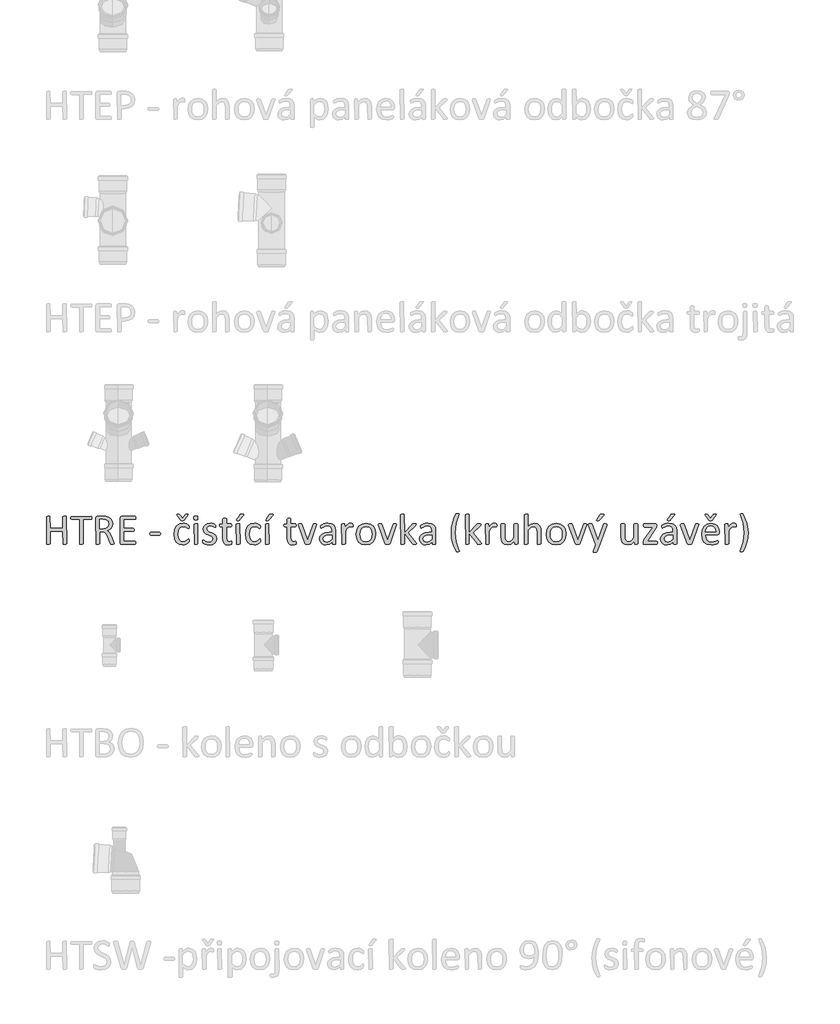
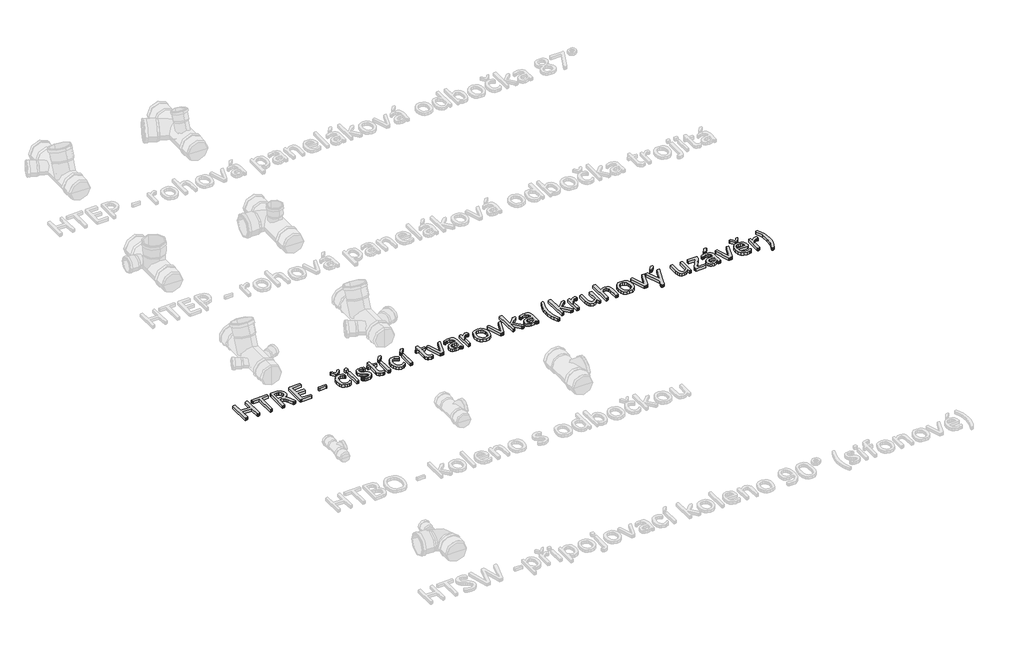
# One storey, part 8 of 26: 1 proxy.
"""IFC4 building model written with IfcOpenShell, lengths in millimetres."""

from ifc_helpers import new_model, si_unit, origin, origin_with_axes, place, context, project, spatial, polyline, outline, extrude, element, save

model = new_model("IFC4")

# Units and contexts
model_context = context("Model", 3, world=origin())
ifc_project = project(units=[si_unit("LENGTHUNIT", "METRE", prefix="MILLI")], contexts=[model_context])

# Site, building, storey
site = spatial("IfcSite", under=ifc_project)
building = spatial("IfcBuilding", under=site)
storey = spatial("IfcBuildingStorey", under=building, Name="Podlaží 1", Elevation=0.0)

# Proxy
placement = place(None, origin())
element("IfcBuildingElementProxy", 1, Name="120mm Arial", ObjectType="120mm Arial", at=placement, inside=storey, context=model_context, shape_type="SweptSolid", body=[
    extrude(outline(polyline([(-20465.0657483, -311.9493003), (-20469.2817655, -314.6815689), (-20473.1358927, -314.9167974), (-20477.1166815, -314.6815689), (-20479.5775327, -314.1387341), (-20481.2784151, -259.3305111), (-20534.5486061, -259.3305111), (-20534.5486061, -311.9854893), (-20538.7465288, -314.6815689), (-20542.6549395, -314.9167974), (-20546.5271613, -314.6815689), (-20549.0603905, -314.1206396), (-20550.7612729, -197.4473409), (-20546.5271613, -194.7150723), (-20542.6549395, -194.4798438), (-20538.7465288, -194.7150723), (-20536.2494886, -195.2760016), (-20534.5486061, -245.4339396), (-20481.2784151, -245.4339396), (-20481.2784151, -197.4473409), (-20477.1166815, -194.7150723), (-20473.1358927, -194.4798438), (-20469.2817655, -194.7150723), (-20466.7666308, -195.2760016), (-20465.0657483, -311.9493003)])), origin_with_axes(), (0.0, 0.0, 1.0), 15.0),
    extrude(outline(polyline([(-20356.2092711, -201.5366966), (-20356.390216, -204.6670441), (-20356.9873343, -206.8021944), (-20393.2667952, -208.3764154), (-20393.2667952, -311.9493003), (-20397.4647179, -314.6815689), (-20401.3731287, -314.9167974), (-20405.2453504, -314.6815689), (-20407.7785796, -314.1206396), (-20409.4794621, -208.3764154), (-20443.3885442, -208.3764154), (-20446.3017578, -204.6670441), (-20446.5369862, -201.5366966), (-20446.3017578, -198.3339711), (-20445.686545, -196.0902538), (-20359.3939021, -194.4798438), (-20357.0054288, -196.0902538), (-20356.390216, -198.3339711), (-20356.2092711, -201.5366966)])), origin_with_axes(), (0.0, 0.0, 1.0), 15.0),
    extrude(outline(polyline([(-20260.4893967, -311.9854893), (-20264.5606579, -314.7358524), (-20269.0299979, -314.9167974), (-20272.9565032, -314.7358524), (-20275.4173544, -314.1387341), (-20276.8468194, -312.998781), (-20277.7153552, -311.1531426), (-20288.7529966, -283.2876215), (-20292.7518799, -274.5660753), (-20297.6012043, -267.7082619), (-20304.2056947, -263.2389219), (-20313.3615088, -261.6466064), (-20323.7839374, -261.6466064), (-20323.7839374, -311.9854893), (-20327.9818601, -314.6815689), (-20331.8902709, -314.9167974), (-20335.7986816, -314.6815689), (-20338.2957218, -314.1206396), (-20339.9966043, -200.9576728), (-20338.1328714, -195.9093089), (-20334.1339881, -194.4798438), (-20309.0188302, -194.4798438), (-20301.6000875, -194.7150723), (-20296.2441172, -195.2398126), (-20284.1389006, -199.0396564), (-20275.3087874, -205.6622413), (-20269.9709116, -214.8542443), (-20268.1976512, -226.2537757), (-20269.7718722, -237.1104722), (-20274.3316847, -245.59679), (-20281.47901, -251.966052), (-20290.815769, -256.543959), (-20285.4236097, -259.8190625), (-20280.9180806, -264.55982), (-20276.9915754, -270.9109874), (-20273.2641096, -279.0173208), (-20262.51598, -305.2543375), (-20260.8512866, -309.886528), (-20260.4893967, -311.9854893)]), holes=[polyline([(-20284.410318, -227.9908471), (-20287.5044765, -216.3741818), (-20297.9088107, -209.534463), (-20303.0476471, -208.6478328), (-20310.5749567, -208.3764154), (-20323.7839374, -208.3764154), (-20323.7839374, -247.7500348), (-20308.4759953, -247.7500348), (-20297.7640548, -246.2662863), (-20290.2367452, -242.1045526), (-20285.8216886, -235.8257631), (-20284.410318, -227.9908471)])]), origin_with_axes(), (0.0, 0.0, 1.0), 15.0),
    extrude(outline(polyline([(-20168.605555, -308.0047006), (-20168.7865, -311.0807646), (-20169.4379018, -313.2701984), (-20170.5235714, -314.536813), (-20229.8011345, -314.9167974), (-20233.8543012, -313.4692378), (-20235.7723176, -308.4027794), (-20235.7723176, -200.9938618), (-20233.8362067, -195.9274034), (-20229.7287565, -194.4798438), (-20171.826375, -194.4798438), (-20169.4559963, -196.1264428), (-20168.8407834, -198.3158766), (-20168.605555, -201.5728856), (-20168.8407834, -204.6308551), (-20169.4559963, -206.7840999), (-20219.5596507, -208.3764154), (-20219.5596507, -245.4339396), (-20178.7384718, -245.4339396), (-20176.3499985, -247.134822), (-20175.7347857, -249.3242558), (-20175.5538408, -252.6355483), (-20175.7347857, -255.7297068), (-20176.3499985, -257.8286681), (-20219.5596507, -259.3305111), (-20219.5596507, -301.0202258), (-20171.862564, -301.0202258), (-20169.4379018, -302.6125413), (-20168.7865, -304.7657861), (-20168.605555, -308.0047006)])), origin_with_axes(), (0.0, 0.0, 1.0), 15.0),
    extrude(outline(polyline([(-20062.0651731, -269.7167508), (-20062.9156143, -274.2765633), (-20065.39456, -275.5431779), (-20104.9853134, -275.5431779), (-20107.536637, -274.2403744), (-20108.3870783, -269.7167508), (-20107.536637, -265.2293162), (-20104.9853134, -263.9627016), (-20065.39456, -263.9627016), (-20062.3004015, -267.0025767), (-20062.0651731, -269.7167508)])), origin_with_axes(), (0.0, 0.0, 1.0), 15.0),
    extrude(outline(polyline([(-19956.6828387, -187.8934479), (-19955.5247911, -186.6087389), (-19952.2315932, -185.3421243), (-19949.3364741, -185.2154628), (-19945.5547248, -185.5230692), (-19943.7452754, -186.4096994), (-19945.1023624, -190.2095432), (-19960.0484147, -210.6925107), (-19961.2245568, -211.8505583), (-19962.8168723, -212.5200546), (-19965.1329675, -212.8819445), (-19968.480449, -213.0086059), (-19971.628891, -212.8819445), (-19973.8545137, -212.4838656), (-19975.3925458, -211.7600858), (-19991.4242676, -190.2095432), (-19992.8175437, -187.9839204), (-19990.9176218, -185.5230692), (-19987.153967, -185.2154628), (-19984.041714, -185.3421243), (-19982.1598866, -185.7944866), (-19979.8437913, -187.8934479), (-19968.263315, -204.0699258), (-19956.6828387, -187.8934479)])), origin_with_axes(), (0.0, 0.0, 1.0), 15.0),
    extrude(outline(polyline([(-19939.3121243, -298.2698627), (-19939.4025968, -300.8030919), (-19939.7282976, -302.6125413), (-19941.718692, -306.2495346), (-19945.6090083, -309.777961), (-19951.7792308, -313.5235213), (-19959.2160679, -316.2015065), (-19967.5395353, -317.2328926), (-19983.2455562, -314.2292066), (-19994.6993711, -305.4533769), (-20001.7381293, -291.3034824), (-20004.1627916, -271.9604681), (-20001.1952945, -250.5184924), (-19993.0708666, -235.8438576), (-19980.929461, -227.3575398), (-19965.8024638, -224.5890822), (-19958.1665873, -225.4033345), (-19951.3630574, -227.5384848), (-19945.8261422, -230.5783598), (-19942.3158103, -233.5277624), (-19940.8139673, -235.4638733), (-19940.1263765, -237.0019053), (-19939.7644866, -238.9018272), (-19939.6740142, -241.5617178), (-19940.4882664, -246.3748533), (-19942.4605663, -247.7500348), (-19945.5909138, -246.3024753), (-19950.0602538, -243.1178443), (-19956.6285553, -239.9332133), (-19965.6938969, -238.4856538), (-19975.2161244, -240.5846151), (-19982.2141701, -246.8814991), (-19986.5161361, -257.1772663), (-19987.9501247, -271.2728773), (-19986.4663762, -285.2780158), (-19982.0875086, -295.3385546), (-19974.9763724, -301.3640212), (-19965.332007, -303.3363211), (-19956.3028544, -301.5087771), (-19949.5717025, -297.4917994), (-19944.7766615, -293.5291052), (-19941.7367865, -291.7558448), (-19939.4387857, -295.3204601), (-19939.3121243, -298.2698627)])), origin_with_axes(), (0.0, 0.0, 1.0), 15.0),
    extrude(outline(polyline([(-19902.2546001, -201.3195627), (-19904.2449945, -208.7202108), (-19911.6275481, -210.6925107), (-19918.8291568, -208.7744943), (-19920.7833622, -201.5366966), (-19918.7929678, -194.1360485), (-19911.4104142, -192.1637486), (-19904.2088055, -194.081765), (-19902.2546001, -201.3195627)])), origin_with_axes(), (0.0, 0.0, 1.0), 15.0),
    extrude(outline(polyline([(-19902.2546001, -312.0940563), (-19906.3801448, -314.7358524), (-19910.3971225, -314.9167974), (-19914.3417223, -314.7358524), (-19916.8387625, -314.1930176), (-19918.4672669, -229.7279186), (-19914.3417223, -227.0861224), (-19910.3971225, -226.9051775), (-19906.3801448, -227.0861224), (-19903.9373881, -227.6289573), (-19902.2546001, -312.0940563)])), origin_with_axes(), (0.0, 0.0, 1.0), 15.0),
    extrude(outline(polyline([(-19821.191266, -290.1635293), (-19823.5978338, -301.6897221), (-19830.4556471, -310.2122289), (-19841.0409262, -315.4596322), (-19854.5575134, -317.2328926), (-19863.2247761, -316.4005459), (-19870.5892352, -314.2834901), (-19876.108056, -311.6055049), (-19879.4193484, -309.0903702), (-19880.9392859, -306.4304796), (-19881.4097428, -302.2144624), (-19881.2287978, -299.4821938), (-19880.758341, -297.6908389), (-19875.8004496, -297.8355948), (-19870.8787471, -301.0202258), (-19863.9485559, -304.2048568), (-19854.7746473, -305.6524163), (-19847.7177945, -304.7657861), (-19842.2351628, -302.1420844), (-19838.6524529, -297.7270279), (-19837.4039328, -291.3939549), (-19839.1952878, -285.4046773), (-19843.9541397, -281.0800932), (-19850.5948191, -277.7507062), (-19858.1945067, -274.7108312), (-19865.8484778, -271.1100269), (-19872.5434406, -266.1883244), (-19877.3022926, -259.2581331), (-19879.0936475, -249.5956732), (-19877.1756311, -240.0960638), (-19871.421582, -232.1344863), (-19861.8315, -226.6518546), (-19848.3691963, -224.5890822), (-19841.6380445, -225.204295), (-19835.5582944, -226.7604215), (-19830.9261039, -228.7870049), (-19828.0309848, -230.7050213), (-19826.7281813, -232.0802028), (-19825.9682125, -234.9210384), (-19825.8234565, -237.3276062), (-19825.9682125, -239.9513078), (-19826.4386693, -241.7788517), (-19830.8175369, -242.0140802), (-19835.0335541, -239.6437014), (-19841.1133042, -237.2733227), (-19849.0929761, -236.1695585), (-19856.1860178, -237.0923777), (-19861.2162872, -239.7160794), (-19864.1837843, -243.7330571), (-19865.197076, -248.7633265), (-19863.2790596, -254.89736), (-19858.2668847, -259.2581331), (-19851.2281264, -262.6237091), (-19843.194171, -265.6997731), (-19835.1059321, -269.2643885), (-19828.0309848, -274.0413349), (-19823.0730934, -280.7905813), (-19821.191266, -290.1635293)])), origin_with_axes(), (0.0, 0.0, 1.0), 15.0),
    extrude(outline(polyline([(-19756.3405987, -306.59333), (-19756.7024886, -311.1169536), (-19757.8062528, -313.5778048), (-19760.0137811, -315.0615533), (-19763.3612625, -316.2015065), (-19767.3601457, -316.9433807), (-19771.5761629, -317.2328926), (-19782.5957099, -315.4777267), (-19790.104925, -310.1760399), (-19794.3752256, -301.1830763), (-19795.7142182, -288.3178909), (-19795.7142182, -238.4856538), (-19806.7156706, -238.4856538), (-19808.8327265, -237.1285667), (-19809.6107897, -232.7316046), (-19809.3936558, -230.035525), (-19808.8327265, -228.2079811), (-19795.7142182, -226.9051775), (-19795.7142182, -206.7479109), (-19794.0857137, -204.5403826), (-19791.5886735, -203.9251698), (-19787.6440737, -203.7442249), (-19783.627096, -203.9251698), (-19781.1843393, -204.5403826), (-19779.8996302, -205.5355798), (-19779.5015513, -226.9051775), (-19759.2357178, -226.9051775), (-19756.5215437, -230.035525), (-19756.3405987, -232.7316046), (-19757.1367565, -237.1285667), (-19759.2357178, -238.4856538), (-19779.5015513, -238.4856538), (-19779.5015513, -285.6760947), (-19777.0949836, -298.866981), (-19768.4639099, -303.3363211), (-19764.8631055, -302.9201477), (-19762.0584589, -302.051612), (-19759.9414031, -301.1649818), (-19758.3671821, -300.7307139), (-19756.5215437, -303.662022), (-19756.3405987, -306.59333)])), origin_with_axes(), (0.0, 0.0, 1.0), 15.0),
    extrude(outline(polyline([(-19721.6353588, -188.5086608), (-19720.2963663, -186.9163453), (-19718.4326334, -185.9392426), (-19715.7003647, -185.3964077), (-19711.791954, -185.2154628), (-19707.4492754, -185.5230692), (-19705.1331801, -186.4096994), (-19705.386503, -189.3410075), (-19722.6848395, -210.1496758), (-19724.0781155, -211.5791409), (-19725.5075806, -212.4295821), (-19727.6065419, -212.8819445), (-19730.8273619, -213.0086059), (-19734.1567488, -212.7371885), (-19735.8938203, -212.0134087), (-19735.4957414, -209.1725732), (-19721.6353588, -188.5086608)])), origin_with_axes(), (0.0, 0.0, 1.0), 15.0),
    extrude(outline(polyline([(-19721.5991698, -312.0940563), (-19725.7247145, -314.7358524), (-19729.7416922, -314.9167974), (-19733.686292, -314.7358524), (-19736.1833322, -314.1930176), (-19737.8118367, -229.7279186), (-19733.686292, -227.0499334), (-19729.7416922, -226.9051775), (-19725.7247145, -227.0499334), (-19723.2819578, -227.5927683), (-19721.5991698, -312.0940563)])), origin_with_axes(), (0.0, 0.0, 1.0), 15.0),
    extrude(outline(polyline([(-19633.58755, -298.2698627), (-19633.6780224, -300.8030919), (-19634.0037233, -302.6125413), (-19635.9941177, -306.2495346), (-19639.8844339, -309.777961), (-19646.0546565, -313.5235213), (-19653.4914936, -316.2015065), (-19661.8149609, -317.2328926), (-19677.5209819, -314.2292066), (-19688.9747968, -305.4533769), (-19696.013555, -291.3034824), (-19698.4382172, -271.9604681), (-19695.4707202, -250.5184924), (-19687.3462923, -235.8438576), (-19675.2048867, -227.3575398), (-19660.0778895, -224.5890822), (-19652.4420129, -225.4033345), (-19645.6384831, -227.5384848), (-19640.1015679, -230.5783598), (-19636.591236, -233.5277624), (-19635.089393, -235.4638733), (-19634.4018022, -237.0019053), (-19634.0399123, -238.9018272), (-19633.9494398, -241.5617178), (-19634.7636921, -246.3748533), (-19636.735992, -247.7500348), (-19639.8663395, -246.3024753), (-19644.3356795, -243.1178443), (-19650.9039809, -239.9332133), (-19659.9693225, -238.4856538), (-19669.4915501, -240.5846151), (-19676.4895958, -246.8814991), (-19680.7915618, -257.1772663), (-19682.2255504, -271.2728773), (-19680.7418019, -285.2780158), (-19676.3629343, -295.3385546), (-19669.2517981, -301.3640212), (-19659.6074326, -303.3363211), (-19650.57828, -301.5087771), (-19643.8471282, -297.4917994), (-19639.0520872, -293.5291052), (-19636.0122122, -291.7558448), (-19633.7142114, -295.3204601), (-19633.58755, -298.2698627)])), origin_with_axes(), (0.0, 0.0, 1.0), 15.0),
    extrude(outline(polyline([(-19596.5662148, -188.5086608), (-19595.2272222, -186.9163453), (-19593.3634893, -185.9392426), (-19590.6312207, -185.3964077), (-19586.7228099, -185.2154628), (-19582.3801313, -185.5230692), (-19580.0640361, -186.4096994), (-19580.317359, -189.3410075), (-19597.6156955, -210.1496758), (-19599.0089715, -211.5791409), (-19600.4384366, -212.4295821), (-19602.5373979, -212.8819445), (-19605.7582179, -213.0086059), (-19609.0876048, -212.7371885), (-19610.8246762, -212.0134087), (-19610.4265974, -209.1725732), (-19596.5662148, -188.5086608)])), origin_with_axes(), (0.0, 0.0, 1.0), 15.0),
    extrude(outline(polyline([(-19596.5300258, -312.0940563), (-19600.6555705, -314.7358524), (-19604.6725482, -314.9167974), (-19608.6171479, -314.7358524), (-19611.1141881, -314.1930176), (-19612.7426926, -229.7279186), (-19608.6171479, -227.0499334), (-19604.6725482, -226.9051775), (-19600.6555705, -227.0499334), (-19598.2128138, -227.5927683), (-19596.5300258, -312.0940563)])), origin_with_axes(), (0.0, 0.0, 1.0), 15.0),
    extrude(outline(polyline([(-19480.7252628, -306.59333), (-19481.0871527, -311.1169536), (-19482.1909168, -313.5778048), (-19484.3984451, -315.0615533), (-19487.7459266, -316.2015065), (-19491.7448098, -316.9433807), (-19495.9608269, -317.2328926), (-19506.9803739, -315.4777267), (-19514.489589, -310.1760399), (-19518.7598896, -301.1830763), (-19520.0988822, -288.3178909), (-19520.0988822, -238.4856538), (-19531.1003347, -238.4856538), (-19533.2173905, -237.1285667), (-19533.9954538, -232.7316046), (-19533.7783199, -230.035525), (-19533.2173905, -228.2079811), (-19520.0988822, -226.9051775), (-19520.0988822, -206.7479109), (-19518.4703777, -204.5403826), (-19515.9733375, -203.9251698), (-19512.0287378, -203.7442249), (-19508.0117601, -203.9251698), (-19505.5690034, -204.5403826), (-19504.2842943, -205.5355798), (-19503.8862154, -226.9051775), (-19483.6203819, -226.9051775), (-19480.9062077, -230.035525), (-19480.7252628, -232.7316046), (-19481.5214205, -237.1285667), (-19483.6203819, -238.4856538), (-19503.8862154, -238.4856538), (-19503.8862154, -285.6760947), (-19501.4796477, -298.866981), (-19492.8485739, -303.3363211), (-19489.2477696, -302.9201477), (-19486.443123, -302.051612), (-19484.3260672, -301.1649818), (-19482.7518462, -300.7307139), (-19480.9062077, -303.662022), (-19480.7252628, -306.59333)])), origin_with_axes(), (0.0, 0.0, 1.0), 15.0),
    extrude(outline(polyline([(-19393.6816984, -228.497493), (-19422.1714795, -311.6235994), (-19423.1485822, -313.2701984), (-19424.9580316, -314.2653956), (-19428.0160011, -314.7720414), (-19432.6662862, -314.9167974), (-19437.2803822, -314.7358524), (-19440.3021627, -314.1930176), (-19442.1116121, -313.1797259), (-19443.1249038, -311.6235994), (-19471.4970707, -233.3830064), (-19472.0941891, -231.4830845), (-19468.4933847, -226.99565), (-19464.9106749, -226.9051775), (-19460.6041852, -227.0499334), (-19458.107145, -227.5565793), (-19456.0081837, -229.8364855), (-19432.4491522, -297.7270279), (-19408.5282309, -229.8364855), (-19406.555931, -227.5565793), (-19404.1312688, -227.0499334), (-19400.0961966, -226.9051775), (-19396.5677702, -226.99565), (-19393.6816984, -228.497493)])), origin_with_axes(), (0.0, 0.0, 1.0), 15.0),
    extrude(outline(polyline([(-19311.6503088, -312.1302453), (-19312.4464666, -313.8130332), (-19314.6178059, -314.64538), (-19318.6709726, -314.9167974), (-19322.7784228, -314.64538), (-19325.0040456, -313.8130332), (-19325.6916363, -312.1302453), (-19325.6916363, -303.8067779), (-19337.8873254, -313.4330488), (-19352.1457869, -317.2328926), (-19364.1062476, -315.5139157), (-19373.2077782, -310.5379298), (-19379.0522998, -302.5401633), (-19381.1331666, -291.7558448), (-19378.256142, -279.4877777), (-19370.0050527, -270.8386094), (-19356.8503554, -265.6816786), (-19339.334885, -263.9627016), (-19327.8629756, -263.9627016), (-19327.8629756, -257.0506049), (-19328.8762673, -248.0033577), (-19332.1332763, -241.4531508), (-19337.9416089, -237.5085511), (-19346.7174386, -236.1695585), (-19356.7598829, -237.6171181), (-19364.5405154, -240.801749), (-19370.1317141, -243.98638), (-19373.4611011, -245.4339396), (-19376.3200312, -241.9055132), (-19376.5009761, -239.2456225), (-19376.1752752, -235.4457788), (-19374.5829597, -232.7858881), (-19370.2402811, -230.071714), (-19363.1472394, -227.3937288), (-19354.3714097, -225.38524), (-19344.7632332, -224.5890822), (-19329.3829132, -226.6337601), (-19319.1233349, -232.6049432), (-19313.4235693, -242.3578755), (-19311.6503088, -255.9649352), (-19311.6503088, -312.1302453)]), holes=[polyline([(-19327.8629756, -275.5431779), (-19340.7462555, -275.5431779), (-19351.4943851, -276.6107531), (-19359.0759782, -279.7591951), (-19363.5091293, -284.7532755), (-19364.9204998, -291.4663329), (-19360.8673331, -301.8163836), (-19349.5039907, -305.6524163), (-19338.5025382, -302.5944468), (-19327.8629756, -293.2395933), (-19327.8629756, -275.5431779)])]), origin_with_axes(), (0.0, 0.0, 1.0), 15.0),
    extrude(outline(polyline([(-19237.5352605, -233.8534633), (-19237.625733, -237.1466612), (-19237.9876229, -239.2818115), (-19241.5341437, -240.4941426), (-19243.8683335, -239.6617959), (-19246.781547, -238.8656382), (-19250.2737844, -238.4856538), (-19254.688841, -239.480851), (-19259.2305591, -242.7378599), (-19264.206545, -248.745232), (-19269.9605941, -257.9191406), (-19269.9605941, -312.0940563), (-19274.0861388, -314.7358524), (-19278.1031165, -314.9167974), (-19282.0477163, -314.7358524), (-19284.5447565, -314.1930176), (-19286.173261, -229.7279186), (-19282.4457952, -227.0499334), (-19278.7907073, -226.9051775), (-19275.2079975, -227.0499334), (-19273.0004692, -227.5927683), (-19271.5167206, -241.7426627), (-19265.2560256, -233.1658725), (-19259.7010159, -227.9365637), (-19254.5259906, -225.312862), (-19249.3328707, -224.5890822), (-19246.6910746, -224.7157437), (-19243.5788216, -225.204295), (-19240.6475135, -226.0185473), (-19238.8018751, -226.9051775), (-19237.5714495, -230.5964543), (-19237.5352605, -233.8534633)])), origin_with_axes(), (0.0, 0.0, 1.0), 15.0),
    extrude(outline(polyline([(-19140.2592596, -270.0062627), (-19142.9372447, -288.9873871), (-19150.9531057, -303.9334394), (-19164.3068424, -313.7225607), (-19182.889888, -317.2328926), (-19200.8034372, -314.1387341), (-19213.5419612, -305.1457705), (-19221.1416487, -290.8149311), (-19223.6386889, -271.7071452), (-19220.9968928, -252.7260207), (-19213.0353153, -237.798063), (-19199.7358621, -228.0632251), (-19181.1166275, -224.5890822), (-19163.1849838, -227.6832407), (-19150.4464598, -236.6762044), (-19142.8105833, -251.0070438), (-19140.2592596, -270.0062627)]), holes=[polyline([(-19156.4719264, -271.0919324), (-19157.7204465, -258.5162589), (-19161.8278967, -248.1300192), (-19169.5542457, -241.0731665), (-19181.7318403, -238.4856538), (-19193.2942221, -240.8560325), (-19201.2557996, -247.5509954), (-19205.9060846, -257.7924791), (-19207.4260221, -270.7300425), (-19206.177502, -283.3780939), (-19202.0338628, -293.7281446), (-19194.2532303, -300.7488084), (-19182.0937302, -303.3363211), (-19170.5675374, -300.9659423), (-19162.5516765, -294.3252629), (-19157.9375804, -284.1199682), (-19156.4719264, -271.0919324)])]), origin_with_axes(), (0.0, 0.0, 1.0), 15.0),
    extrude(outline(polyline([(-19050.8995999, -228.497493), (-19079.389381, -311.6235994), (-19080.3664837, -313.2701984), (-19082.1759331, -314.2653956), (-19085.2339027, -314.7720414), (-19089.8841877, -314.9167974), (-19094.4982837, -314.7358524), (-19097.5200642, -314.1930176), (-19099.3295137, -313.1797259), (-19100.3428053, -311.6235994), (-19128.7149723, -233.3830064), (-19129.3120906, -231.4830845), (-19125.7112862, -226.99565), (-19122.1285764, -226.9051775), (-19117.8220867, -227.0499334), (-19115.3250465, -227.5565793), (-19113.2260852, -229.8364855), (-19089.6670537, -297.7270279), (-19065.7461324, -229.8364855), (-19063.7738325, -227.5565793), (-19061.3491703, -227.0499334), (-19057.3140981, -226.9051775), (-19053.7856717, -226.99565), (-19050.8995999, -228.497493)])), origin_with_axes(), (0.0, 0.0, 1.0), 15.0),
    extrude(outline(polyline([(-18964.2360198, -311.9854893), (-18968.307281, -314.7358524), (-18972.3061642, -314.9167974), (-18976.4317089, -314.7720414), (-18979.182072, -314.3196791), (-18980.9915215, -313.4149543), (-18982.2581361, -311.9854893), (-19017.5062108, -266.4235529), (-19017.5062108, -312.0940563), (-19021.6317555, -314.7358524), (-19025.6487332, -314.9167974), (-19029.5933329, -314.7358524), (-19032.0903731, -314.1749231), (-19033.7188776, -188.1829599), (-19029.5933329, -185.3964077), (-19025.6487332, -185.2154628), (-19021.6317555, -185.3964077), (-19019.1889988, -185.9573371), (-19017.9042897, -186.8982508), (-19017.5062108, -264.3245915), (-18985.2980111, -230.0898085), (-18983.6876011, -228.5879654), (-18981.6610178, -227.5927683), (-18978.8744656, -227.0499334), (-18974.9841494, -226.9051775), (-18971.0033607, -227.0499334), (-18968.415848, -227.5022958), (-18966.9863829, -228.316548), (-18967.1854224, -231.8449744), (-18969.3024782, -234.3962981), (-19001.293544, -264.2160246), (-18966.5159261, -307.6789997), (-18964.7607602, -310.1941344), (-18964.2360198, -311.9854893)])), origin_with_axes(), (0.0, 0.0, 1.0), 15.0),
    extrude(outline(polyline([(-18883.1726857, -312.1302453), (-18883.9688435, -313.8130332), (-18886.1401828, -314.64538), (-18890.1933495, -314.9167974), (-18894.3007997, -314.64538), (-18896.5264225, -313.8130332), (-18897.2140132, -312.1302453), (-18897.2140132, -303.8067779), (-18909.4097023, -313.4330488), (-18923.6681638, -317.2328926), (-18935.6286245, -315.5139157), (-18944.7301551, -310.5379298), (-18950.5746767, -302.5401633), (-18952.6555435, -291.7558448), (-18949.7785189, -279.4877777), (-18941.5274296, -270.8386094), (-18928.3727323, -265.6816786), (-18910.8572619, -263.9627016), (-18899.3853525, -263.9627016), (-18899.3853525, -257.0506049), (-18900.3986442, -248.0033577), (-18903.6556532, -241.4531508), (-18909.4639858, -237.5085511), (-18918.2398155, -236.1695585), (-18928.2822598, -237.6171181), (-18936.0628923, -240.801749), (-18941.654091, -243.98638), (-18944.983478, -245.4339396), (-18947.8424081, -241.9055132), (-18948.023353, -239.2456225), (-18947.6976521, -235.4457788), (-18946.1053366, -232.7858881), (-18941.762658, -230.071714), (-18934.6696163, -227.3937288), (-18925.8937866, -225.38524), (-18916.2856101, -224.5890822), (-18900.9052901, -226.6337601), (-18890.6457118, -232.6049432), (-18884.9459462, -242.3578755), (-18883.1726857, -255.9649352), (-18883.1726857, -312.1302453)]), holes=[polyline([(-18899.3853525, -275.5431779), (-18912.2686324, -275.5431779), (-18923.016762, -276.6107531), (-18930.5983551, -279.7591951), (-18935.0315061, -284.7532755), (-18936.4428767, -291.4663329), (-18932.38971, -301.8163836), (-18921.0263676, -305.6524163), (-18910.0249151, -302.5944468), (-18899.3853525, -293.2395933), (-18899.3853525, -275.5431779)])]), origin_with_axes(), (0.0, 0.0, 1.0), 15.0),
    extrude(outline(polyline([(-18782.4587309, -186.7354003), (-18795.5591447, -225.168106), (-18799.8656343, -264.8312374), (-18795.4686722, -304.5486522), (-18782.6396758, -343.1442083), (-18782.1149355, -345.0622247), (-18784.7024482, -347.1069026), (-18788.393725, -347.342131), (-18791.2526551, -347.2516585), (-18793.3335219, -346.8716742), (-18804.4254469, -326.1353838), (-18810.8128033, -306.3219126), (-18814.7031196, -285.9475121), (-18816.0059232, -265.1207493), (-18814.5764581, -244.3301754), (-18810.4871024, -223.9557749), (-18804.027368, -204.0518313), (-18795.5229557, -184.672628), (-18791.7954899, -183.0441235), (-18788.466103, -182.8993675), (-18785.0281491, -183.170785), (-18782.9834712, -183.9126592), (-18782.4587309, -186.7354003)])), origin_with_axes(), (0.0, 0.0, 1.0), 15.0),
    extrude(outline(polyline([(-18686.3045886, -311.9854893), (-18690.3758498, -314.7358524), (-18694.374733, -314.9167974), (-18698.5002777, -314.7720414), (-18701.2506408, -314.3196791), (-18703.0600903, -313.4149543), (-18704.3267049, -311.9854893), (-18739.5747796, -266.4235529), (-18739.5747796, -312.0940563), (-18743.7003243, -314.7358524), (-18747.717302, -314.9167974), (-18751.6619017, -314.7358524), (-18754.1589419, -314.1749231), (-18755.7874464, -188.1829599), (-18751.6619017, -185.3964077), (-18747.717302, -185.2154628), (-18743.7003243, -185.3964077), (-18741.2575676, -185.9573371), (-18739.9728585, -186.8982508), (-18739.5747796, -264.3245915), (-18707.3665799, -230.0898085), (-18705.7561699, -228.5879654), (-18703.7295866, -227.5927683), (-18700.9430344, -227.0499334), (-18697.0527182, -226.9051775), (-18693.0719295, -227.0499334), (-18690.4844168, -227.5022958), (-18689.0549517, -228.316548), (-18689.2539912, -231.8449744), (-18691.371047, -234.3962981), (-18723.3621128, -264.2160246), (-18688.5844949, -307.6789997), (-18686.829329, -310.1941344), (-18686.3045886, -311.9854893)])), origin_with_axes(), (0.0, 0.0, 1.0), 15.0),
    extrude(outline(polyline([(-18621.4539213, -233.8534633), (-18621.5443938, -237.1466612), (-18621.9062837, -239.2818115), (-18625.4528046, -240.4941426), (-18627.7869943, -239.6617959), (-18630.7002079, -238.8656382), (-18634.1924453, -238.4856538), (-18638.6075019, -239.480851), (-18643.1492199, -242.7378599), (-18648.1252058, -248.745232), (-18653.879255, -257.9191406), (-18653.879255, -312.0940563), (-18658.0047997, -314.7358524), (-18662.0217774, -314.9167974), (-18665.9663771, -314.7358524), (-18668.4634173, -314.1930176), (-18670.0919218, -229.7279186), (-18666.364456, -227.0499334), (-18662.7093682, -226.9051775), (-18659.1266583, -227.0499334), (-18656.91913, -227.5927683), (-18655.4353815, -241.7426627), (-18649.1746865, -233.1658725), (-18643.6196768, -227.9365637), (-18638.4446514, -225.312862), (-18633.2515316, -224.5890822), (-18630.6097354, -224.7157437), (-18627.4974824, -225.204295), (-18624.5661743, -226.0185473), (-18622.7205359, -226.9051775), (-18621.4901103, -230.5964543), (-18621.4539213, -233.8534633)])), origin_with_axes(), (0.0, 0.0, 1.0), 15.0),
    extrude(outline(polyline([(-18531.1262062, -312.0940563), (-18534.9803335, -314.7358524), (-18538.4363819, -314.9167974), (-18542.1276587, -314.7358524), (-18544.371376, -314.1930176), (-18545.7827465, -301.2011707), (-18559.6612236, -313.3968599), (-18573.5397006, -317.2328926), (-18587.3638942, -314.4463405), (-18596.4473303, -306.9009364), (-18601.4233162, -295.790917), (-18602.9251593, -280.3563134), (-18602.9251593, -229.7641076), (-18601.2604658, -227.6108628), (-18598.7272366, -227.0499334), (-18594.8188258, -226.9051775), (-18590.9104151, -227.0499334), (-18588.4314694, -227.5927683), (-18587.1105713, -228.497493), (-18586.7124924, -277.8230842), (-18585.6992008, -289.421655), (-18582.5869478, -296.8584921), (-18577.3033554, -301.6354386), (-18569.8484238, -303.3363211), (-18558.9012548, -299.2650599), (-18547.338873, -287.3045992), (-18547.338873, -229.7279186), (-18545.6741795, -227.5927683), (-18543.1771393, -227.0499334), (-18539.2325396, -226.9051775), (-18535.3241289, -227.0499334), (-18532.8813721, -227.5927683), (-18531.5604741, -228.497493), (-18531.1262062, -312.0940563)])), origin_with_axes(), (0.0, 0.0, 1.0), 15.0),
    extrude(outline(polyline([(-18431.53411, -312.0578673), (-18435.6596547, -314.7358524), (-18439.6042544, -314.9167974), (-18443.6212322, -314.7358524), (-18446.0639889, -314.1930176), (-18447.7467768, -263.7093787), (-18448.814352, -252.3460364), (-18451.9085105, -244.9091992), (-18457.1740083, -240.1322528), (-18464.6470344, -238.4856538), (-18475.6303924, -242.520726), (-18487.1203963, -254.3726197), (-18487.1203963, -312.0578673), (-18491.2459409, -314.7358524), (-18495.2629187, -314.9167974), (-18499.2075184, -314.7358524), (-18501.7045586, -314.1749231), (-18503.3330631, -188.1829599), (-18499.2075184, -185.3964077), (-18495.2629187, -185.2154628), (-18491.2459409, -185.3964077), (-18488.8031842, -185.9573371), (-18487.5184751, -186.8982508), (-18487.1203963, -238.2685199), (-18474.0923604, -227.9546581), (-18460.8833796, -224.5890822), (-18447.0591861, -227.4118233), (-18437.9938445, -234.9572274), (-18433.035953, -246.0129634), (-18431.53411, -261.3209055), (-18431.53411, -312.0578673)])), origin_with_axes(), (0.0, 0.0, 1.0), 15.0),
    extrude(outline(polyline([(-18324.9937281, -270.0062627), (-18327.6717132, -288.9873871), (-18335.6875741, -303.9334394), (-18349.0413109, -313.7225607), (-18367.6243564, -317.2328926), (-18385.5379057, -314.1387341), (-18398.2764296, -305.1457705), (-18405.8761172, -290.8149311), (-18408.3731574, -271.7071452), (-18405.7313613, -252.7260207), (-18397.7697838, -237.798063), (-18384.4703306, -228.0632251), (-18365.851096, -224.5890822), (-18347.9194522, -227.6832407), (-18335.1809283, -236.6762044), (-18327.5450517, -251.0070438), (-18324.9937281, -270.0062627)]), holes=[polyline([(-18341.2063949, -271.0919324), (-18342.454915, -258.5162589), (-18346.5623652, -248.1300192), (-18354.2887142, -241.0731665), (-18366.4663088, -238.4856538), (-18378.0286906, -240.8560325), (-18385.9902681, -247.5509954), (-18390.6405531, -257.7924791), (-18392.1604906, -270.7300425), (-18390.9119705, -283.3780939), (-18386.7683313, -293.7281446), (-18378.9876988, -300.7488084), (-18366.8281987, -303.3363211), (-18355.3020059, -300.9659423), (-18347.2861449, -294.3252629), (-18342.6720489, -284.1199682), (-18341.2063949, -271.0919324)])]), origin_with_axes(), (0.0, 0.0, 1.0), 15.0),
    extrude(outline(polyline([(-18235.6340684, -228.497493), (-18264.1238495, -311.6235994), (-18265.1009522, -313.2701984), (-18266.9104016, -314.2653956), (-18269.9683711, -314.7720414), (-18274.6186562, -314.9167974), (-18279.2327522, -314.7358524), (-18282.2545327, -314.1930176), (-18284.0639821, -313.1797259), (-18285.0772738, -311.6235994), (-18313.4494407, -233.3830064), (-18314.0465591, -231.4830845), (-18310.4457547, -226.99565), (-18306.8630448, -226.9051775), (-18302.5565552, -227.0499334), (-18300.059515, -227.5565793), (-18297.9605537, -229.8364855), (-18274.4015222, -297.7270279), (-18250.4806009, -229.8364855), (-18248.508301, -227.5565793), (-18246.0836388, -227.0499334), (-18242.0485666, -226.9051775), (-18238.5201402, -226.99565), (-18235.6340684, -228.497493)])), origin_with_axes(), (0.0, 0.0, 1.0), 15.0),
    extrude(outline(polyline([(-18179.1159157, -188.5086608), (-18177.7769231, -186.9163453), (-18175.9131902, -185.9392426), (-18173.1809216, -185.3964077), (-18169.2725108, -185.2154628), (-18164.9298322, -185.5230692), (-18162.6137369, -186.4096994), (-18162.8670599, -189.3410075), (-18180.1653963, -210.1496758), (-18181.5586724, -211.5791409), (-18182.9881374, -212.4295821), (-18185.0870988, -212.8819445), (-18188.3079187, -213.0086059), (-18191.6373057, -212.7371885), (-18193.3743771, -212.0134087), (-18192.9762982, -209.1725732), (-18179.1159157, -188.5086608)])), origin_with_axes(), (0.0, 0.0, 1.0), 15.0),
    extrude(outline(polyline([(-18180.1292073, -314.9167974), (-18191.2754158, -346.5097843), (-18194.0981569, -348.843974), (-18201.0102537, -349.6582263), (-18204.8824754, -349.4229978), (-18207.1623817, -348.6087456), (-18208.0490119, -347.0707136), (-18207.5966496, -344.7727128), (-18196.0885512, -314.9167974), (-18197.6627722, -313.7225607), (-18198.6941584, -311.9854893), (-18228.4415069, -232.8039826), (-18229.2014757, -229.7460131), (-18228.4596014, -228.0089416), (-18226.0530337, -227.1404059), (-18221.6017881, -226.9051775), (-18217.241015, -227.0499334), (-18214.7258803, -227.5565793), (-18213.3687932, -228.6060599), (-18212.518352, -230.4878873), (-18188.6698086, -296.9670591), (-18165.400289, -230.1259975), (-18164.043202, -227.8822802), (-18161.6909177, -227.1404059), (-18157.1491997, -226.9051775), (-18152.878899, -227.1404059), (-18150.4180478, -228.0089416), (-18149.6218901, -229.7460131), (-18150.2009139, -232.5144707), (-18180.1292073, -314.9167974)])), origin_with_axes(), (0.0, 0.0, 1.0), 15.0),
    extrude(outline(polyline([(-18016.9530585, -312.0940563), (-18020.8071857, -314.7358524), (-18024.2632341, -314.9167974), (-18027.954511, -314.7358524), (-18030.1982282, -314.1930176), (-18031.6095988, -301.2011707), (-18045.4880759, -313.3968599), (-18059.3665529, -317.2328926), (-18073.1907465, -314.4463405), (-18082.2741826, -306.9009364), (-18087.2501685, -295.790917), (-18088.7520115, -280.3563134), (-18088.7520115, -229.7641076), (-18087.0873181, -227.6108628), (-18084.5540889, -227.0499334), (-18080.6456781, -226.9051775), (-18076.7372674, -227.0499334), (-18074.2583217, -227.5927683), (-18072.9374236, -228.497493), (-18072.5393447, -277.8230842), (-18071.526053, -289.421655), (-18068.4138, -296.8584921), (-18063.1302077, -301.6354386), (-18055.6752761, -303.3363211), (-18044.7281071, -299.2650599), (-18033.1657253, -287.3045992), (-18033.1657253, -229.7279186), (-18031.5010318, -227.5927683), (-18029.0039916, -227.0499334), (-18025.0593919, -226.9051775), (-18021.1509811, -227.0499334), (-18018.7082244, -227.5927683), (-18017.3873263, -228.497493), (-18016.9530585, -312.0940563)])), origin_with_axes(), (0.0, 0.0, 1.0), 15.0),
    extrude(outline(polyline([(-17933.5736291, -307.9323226), (-17933.863141, -311.1712371), (-17934.5326373, -313.3787654), (-17989.2684823, -314.9167974), (-17992.5254913, -313.5416158), (-17993.7921059, -308.9456143), (-17993.7921059, -305.6162273), (-17993.6111609, -303.1553761), (-17993.0502316, -301.0021313), (-17992.0007509, -298.7041305), (-17990.390341, -295.9175784), (-17952.9347379, -240.801749), (-17989.2684823, -240.801749), (-17991.6750501, -239.1551501), (-17992.5616803, -233.8172743), (-17992.3807353, -230.6507378), (-17991.7655225, -228.4432095), (-17990.7160419, -227.2489729), (-17940.5581039, -226.9051775), (-17938.7124655, -227.1946894), (-17937.3553784, -228.1717921), (-17936.4506537, -229.9450525), (-17936.1068583, -232.6954156), (-17936.1068583, -235.8076686), (-17936.3058977, -238.3589923), (-17936.8849216, -240.6569931), (-17937.9163077, -243.0635608), (-17939.5086232, -245.9043964), (-17976.8194703, -301.0202258), (-17936.975394, -301.0202258), (-17933.863141, -304.6753136), (-17933.5736291, -307.9323226)])), origin_with_axes(), (0.0, 0.0, 1.0), 15.0),
    extrude(outline(polyline([(-17875.7074366, -188.5086608), (-17874.368444, -186.9163453), (-17872.5047111, -185.9392426), (-17869.7724425, -185.3964077), (-17865.8640317, -185.2154628), (-17861.5213531, -185.5230692), (-17859.2052579, -186.4096994), (-17859.4585808, -189.3410075), (-17876.7569173, -210.1496758), (-17878.1501933, -211.5791409), (-17879.5796584, -212.4295821), (-17881.6786197, -212.8819445), (-17884.8994397, -213.0086059), (-17888.2288266, -212.7371885), (-17889.965898, -212.0134087), (-17889.5678192, -209.1725732), (-17875.7074366, -188.5086608)])), origin_with_axes(), (0.0, 0.0, 1.0), 15.0),
    extrude(outline(polyline([(-17850.1941998, -312.1302453), (-17850.9903575, -313.8130332), (-17853.1616968, -314.64538), (-17857.2148635, -314.9167974), (-17861.3223137, -314.64538), (-17863.5479365, -313.8130332), (-17864.2355273, -312.1302453), (-17864.2355273, -303.8067779), (-17876.4312164, -313.4330488), (-17890.6896778, -317.2328926), (-17902.6501385, -315.5139157), (-17911.7516691, -310.5379298), (-17917.5961907, -302.5401633), (-17919.6770576, -291.7558448), (-17916.800033, -279.4877777), (-17908.5489436, -270.8386094), (-17895.3942463, -265.6816786), (-17877.8787759, -263.9627016), (-17866.4068666, -263.9627016), (-17866.4068666, -257.0506049), (-17867.4201583, -248.0033577), (-17870.6771672, -241.4531508), (-17876.4854999, -237.5085511), (-17885.2613296, -236.1695585), (-17895.3037738, -237.6171181), (-17903.0844064, -240.801749), (-17908.6756051, -243.98638), (-17912.004992, -245.4339396), (-17914.8639221, -241.9055132), (-17915.044867, -239.2456225), (-17914.7191661, -235.4457788), (-17913.1268506, -232.7858881), (-17908.784172, -230.071714), (-17901.6911303, -227.3937288), (-17892.9153006, -225.38524), (-17883.3071242, -224.5890822), (-17867.9268041, -226.6337601), (-17857.6672259, -232.6049432), (-17851.9674602, -242.3578755), (-17850.1941998, -255.9649352), (-17850.1941998, -312.1302453)]), holes=[polyline([(-17866.4068666, -275.5431779), (-17879.2901465, -275.5431779), (-17890.038276, -276.6107531), (-17897.6198691, -279.7591951), (-17902.0530202, -284.7532755), (-17903.4643907, -291.4663329), (-17899.411224, -301.8163836), (-17888.0478817, -305.6524163), (-17877.0464292, -302.5944468), (-17866.4068666, -293.2395933), (-17866.4068666, -275.5431779)])]), origin_with_axes(), (0.0, 0.0, 1.0), 15.0),
    extrude(outline(polyline([(-17756.2023495, -228.497493), (-17784.6921307, -311.6235994), (-17785.6692334, -313.2701984), (-17787.4786828, -314.2653956), (-17790.5366523, -314.7720414), (-17795.1869373, -314.9167974), (-17799.8010334, -314.7358524), (-17802.8228139, -314.1930176), (-17804.6322633, -313.1797259), (-17805.645555, -311.6235994), (-17834.0177219, -233.3830064), (-17834.6148402, -231.4830845), (-17831.0140359, -226.99565), (-17827.431326, -226.9051775), (-17823.1248364, -227.0499334), (-17820.6277962, -227.5565793), (-17818.5288349, -229.8364855), (-17794.9698034, -297.7270279), (-17771.048882, -229.8364855), (-17769.0765822, -227.5565793), (-17766.6519199, -227.0499334), (-17762.6168477, -226.9051775), (-17759.0884214, -226.99565), (-17756.2023495, -228.497493)])), origin_with_axes(), (0.0, 0.0, 1.0), 15.0),
    extrude(outline(polyline([(-17667.2226742, -266.6044978), (-17669.0140291, -271.7071452), (-17673.1214793, -273.2270827), (-17727.441151, -273.2270827), (-17726.0840639, -286.6170084), (-17721.5785348, -296.8223031), (-17713.3636345, -303.3725101), (-17700.9870004, -305.6524163), (-17690.7093277, -304.5848412), (-17682.8925062, -302.1782734), (-17677.4822524, -299.7717057), (-17674.279527, -298.7041305), (-17671.9815262, -301.5992496), (-17671.8548647, -304.2410458), (-17671.9453372, -306.1771567), (-17676.3965828, -311.5693159), (-17682.7477503, -314.0663561), (-17691.7949974, -316.2557899), (-17702.7602609, -317.2328926), (-17720.4385817, -314.3377735), (-17733.1952001, -305.7247943), (-17741.0120216, -291.3758604), (-17743.6538178, -271.3452553), (-17740.8853602, -251.8032015), (-17732.9056882, -237.1104722), (-17720.3119203, -227.8279967), (-17703.7735525, -224.5890822), (-17687.1266179, -227.7194297), (-17675.817559, -236.151464), (-17669.303541, -248.5823816), (-17667.2226742, -263.8179457), (-17667.2226742, -266.6044978)]), holes=[polyline([(-17683.435341, -261.6466064), (-17684.6069595, -251.0206147), (-17688.6284609, -242.9549939), (-17695.4003253, -237.8659174), (-17704.8230332, -236.1695585), (-17714.4673986, -238.2685199), (-17721.3975899, -243.8597186), (-17725.722174, -251.9841465), (-17727.441151, -261.6466064), (-17683.435341, -261.6466064)])]), origin_with_axes(), (0.0, 0.0, 1.0), 15.0),
    extrude(outline(polyline([(-17693.8577697, -187.8934479), (-17692.6997221, -186.6087389), (-17689.4065241, -185.3421243), (-17686.5114051, -185.2154628), (-17682.7296558, -185.5230692), (-17680.9202063, -186.4096994), (-17682.2772934, -190.2095432), (-17697.2233456, -210.6925107), (-17698.3994878, -211.8505583), (-17699.9918032, -212.5200546), (-17702.3078985, -212.8819445), (-17705.6553799, -213.0086059), (-17708.8038219, -212.8819445), (-17711.0294447, -212.4838656), (-17712.5674767, -211.7600858), (-17728.5991986, -190.2095432), (-17729.9924747, -187.9839204), (-17728.0925528, -185.5230692), (-17724.328898, -185.2154628), (-17721.216645, -185.3421243), (-17719.3348176, -185.7944866), (-17717.0187223, -187.8934479), (-17705.438246, -204.0699258), (-17693.8577697, -187.8934479)])), origin_with_axes(), (0.0, 0.0, 1.0), 15.0),
    extrude(outline(polyline([(-17595.4237212, -233.8534633), (-17595.5141936, -237.1466612), (-17595.8760835, -239.2818115), (-17599.4226044, -240.4941426), (-17601.7567941, -239.6617959), (-17604.6700077, -238.8656382), (-17608.1622451, -238.4856538), (-17612.5773017, -239.480851), (-17617.1190197, -242.7378599), (-17622.0950056, -248.745232), (-17627.8490548, -257.9191406), (-17627.8490548, -312.0940563), (-17631.9745995, -314.7358524), (-17635.9915772, -314.9167974), (-17639.9361769, -314.7358524), (-17642.4332171, -314.1930176), (-17644.0617216, -229.7279186), (-17640.3342558, -227.0499334), (-17636.679168, -226.9051775), (-17633.0964581, -227.0499334), (-17630.8889298, -227.5927683), (-17629.4051813, -241.7426627), (-17623.1444863, -233.1658725), (-17617.5894766, -227.9365637), (-17612.4144512, -225.312862), (-17607.2213314, -224.5890822), (-17604.5795352, -224.7157437), (-17601.4672822, -225.204295), (-17598.5359742, -226.0185473), (-17596.6903357, -226.9051775), (-17595.4599101, -230.5964543), (-17595.4237212, -233.8534633)])), origin_with_axes(), (0.0, 0.0, 1.0), 15.0),
    extrude(outline(polyline([(-17544.4696254, -265.1207493), (-17545.772429, -285.9475121), (-17549.6627453, -306.3219126), (-17556.0139127, -326.1353838), (-17564.7716479, -345.3879256), (-17569.1324211, -347.2516585), (-17572.0094456, -347.342131), (-17575.7731004, -347.1069026), (-17577.7092113, -346.3650283), (-17577.7634948, -343.1442083), (-17564.8621204, -304.6029357), (-17560.5013473, -264.8312374), (-17564.8621204, -225.168106), (-17577.9444397, -186.7354003), (-17578.2158572, -185.1249903), (-17575.3388326, -183.170785), (-17571.9370677, -182.8993675), (-17568.6800587, -183.0441235), (-17566.5810974, -183.4602969), (-17549.8979737, -223.9557749), (-17544.4696254, -265.1207493)])), origin_with_axes(), (0.0, 0.0, 1.0), 15.0),
])

save(model, "model.ifc")
